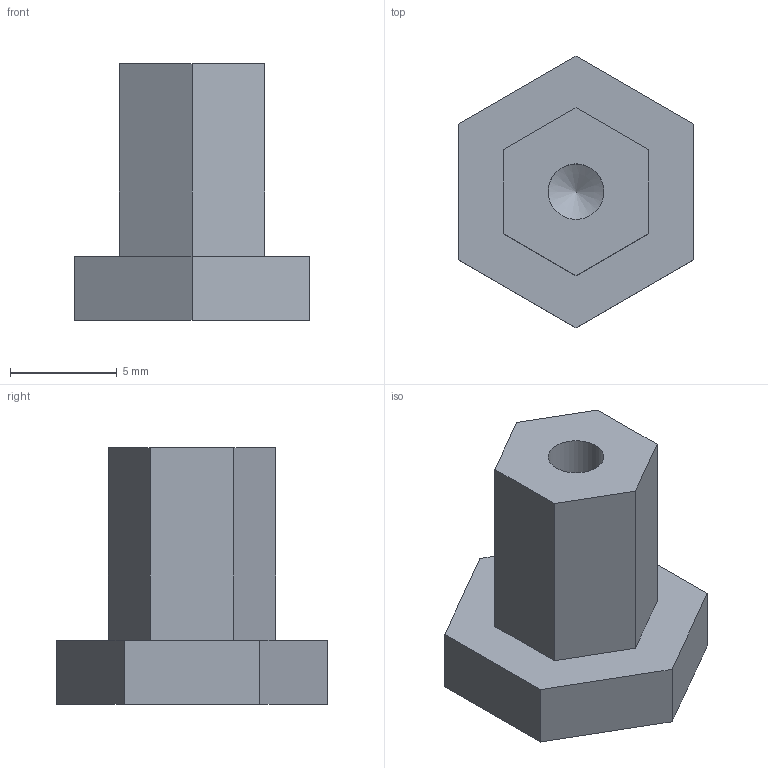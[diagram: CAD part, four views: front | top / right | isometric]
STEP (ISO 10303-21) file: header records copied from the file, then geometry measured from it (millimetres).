
FILE_DESCRIPTION(/* description */ ('STEP AP242 Edition 2','CAx-IF Rec.Pracs.---Representation and Presentation of Product Manufacturing Information (PMI)---4.0---2014-10-13','CAx-IF Rec.Pracs.---3D Tessellated Geometry---0.4---2014-09-14','2;1','CAx-IF Rec.Pracs.---User Defined Attributes---1.5---2016-08-15'),/* implementation_level */ '2;1');
FILE_NAME(/* name */ 'Enclosure - PLA Standoff Nut 1',/* time_stamp */ '2026-11-16T09:17:36Z',/* author */ (''),/* organization */ (''),/* preprocessor_version */ 'ST-DEVELOPER v20',/* originating_system */ 'ONSHAPE BY PTC INC, 1.223',/* authorisation */ ' ');
FILE_SCHEMA (('AP242_MANAGED_MODEL_BASED_3D_ENGINEERING_MIM_LF { 1 0 10303 442 3 1 4 }'));
Length unit declared in the file: metre
Products named in the file (1): PLA Standoff Nut 1
Bounding box: 11 x 12.7 x 12 mm (x, y, z)
Volume: 620.3 mm3; surface area: 618.5 mm2
Topology: 1 solids, 1 shells, 17 faces, 42 edges, 28 vertices
Faces by surface type: plane 15, cone 1, cylinder 1
Full cylindrical faces by diameter (mm): 2.6 x1
Entity records: 496 total; most frequent: CARTESIAN_POINT 83, ORIENTED_EDGE 76, DIRECTION 76, EDGE_CURVE 38, LINE 36, VECTOR 36, VERTEX_POINT 27, FACE_BOUND 21
